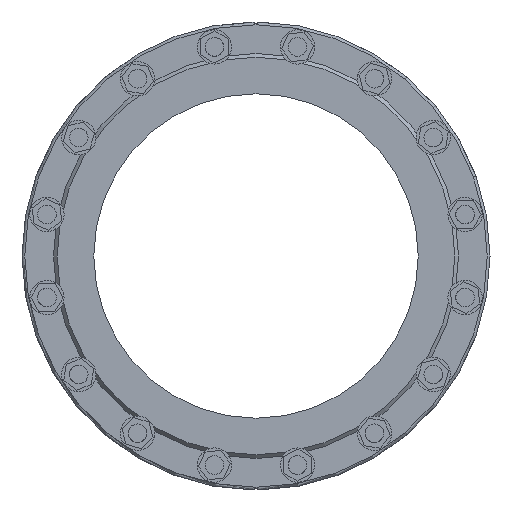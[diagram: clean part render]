
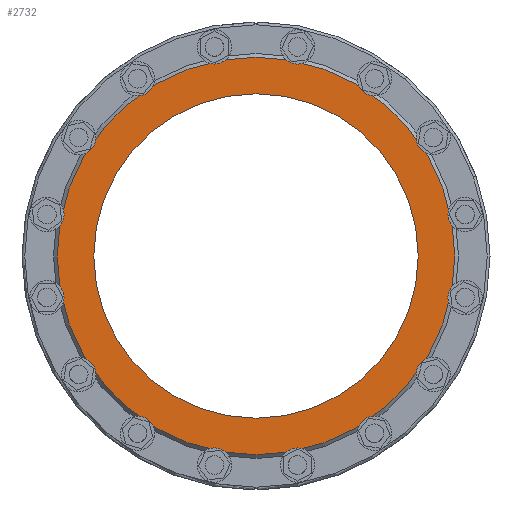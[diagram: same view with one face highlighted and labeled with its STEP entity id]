
A CAD part, left-side view. The second image highlights one B-rep face of the part: STEP entity #2732.
In plain terms, the highlighted planar face has unit normal (-1, 0, 0).
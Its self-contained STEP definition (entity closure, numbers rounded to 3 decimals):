
#415 = EDGE_LOOP ( 'NONE', ( #4007 ) ) ;
#448 = CIRCLE ( 'NONE', #13634, 214.5 ) ;
#1234 = AXIS2_PLACEMENT_3D ( 'NONE', #23949, #22202, #9861 ) ;
#2732 = ADVANCED_FACE ( 'NONE', ( #20082, #8113 ), #13713, .F. ) ;
#3354 = VERTEX_POINT ( 'NONE', #23306 ) ;
#4007 = ORIENTED_EDGE ( 'NONE', *, *, #7751, .T. ) ;
#4988 = VERTEX_POINT ( 'NONE', #25873 ) ;
#7751 = EDGE_CURVE ( 'NONE', #4988, #4988, #448, .T. ) ;
#8113 = FACE_OUTER_BOUND ( 'NONE', #415, .T. ) ;
#9501 = ORIENTED_EDGE ( 'NONE', *, *, #12102, .T. ) ;
#9861 = DIRECTION ( 'NONE',  ( 0., 0., 1. ) ) ;
#10043 = DIRECTION ( 'NONE',  ( -1., 0., 0. ) ) ;
#12102 = EDGE_CURVE ( 'NONE', #3354, #3354, #25254, .T. ) ;
#12825 = EDGE_LOOP ( 'NONE', ( #9501 ) ) ;
#13634 = AXIS2_PLACEMENT_3D ( 'NONE', #25746, #10043, #26266 ) ;
#13713 = PLANE ( 'NONE',  #1234 ) ;
#17196 = AXIS2_PLACEMENT_3D ( 'NONE', #18129, #22503, #26240 ) ;
#18129 = CARTESIAN_POINT ( 'NONE',  ( -13., 0., 0. ) ) ;
#20082 = FACE_BOUND ( 'NONE', #12825, .T. ) ;
#22202 = DIRECTION ( 'NONE',  ( 1., 0., 0. ) ) ;
#22503 = DIRECTION ( 'NONE',  ( 1., 0., 0. ) ) ;
#23306 = CARTESIAN_POINT ( 'NONE',  ( -13., 0., -175. ) ) ;
#23949 = CARTESIAN_POINT ( 'NONE',  ( -13., -175., 0. ) ) ;
#25254 = CIRCLE ( 'NONE', #17196, 175. ) ;
#25746 = CARTESIAN_POINT ( 'NONE',  ( -13., 0., 0. ) ) ;
#25873 = CARTESIAN_POINT ( 'NONE',  ( -13., 0., -214.5 ) ) ;
#26240 = DIRECTION ( 'NONE',  ( 0., 0., -1. ) ) ;
#26266 = DIRECTION ( 'NONE',  ( 0., 0., -1. ) ) ;
